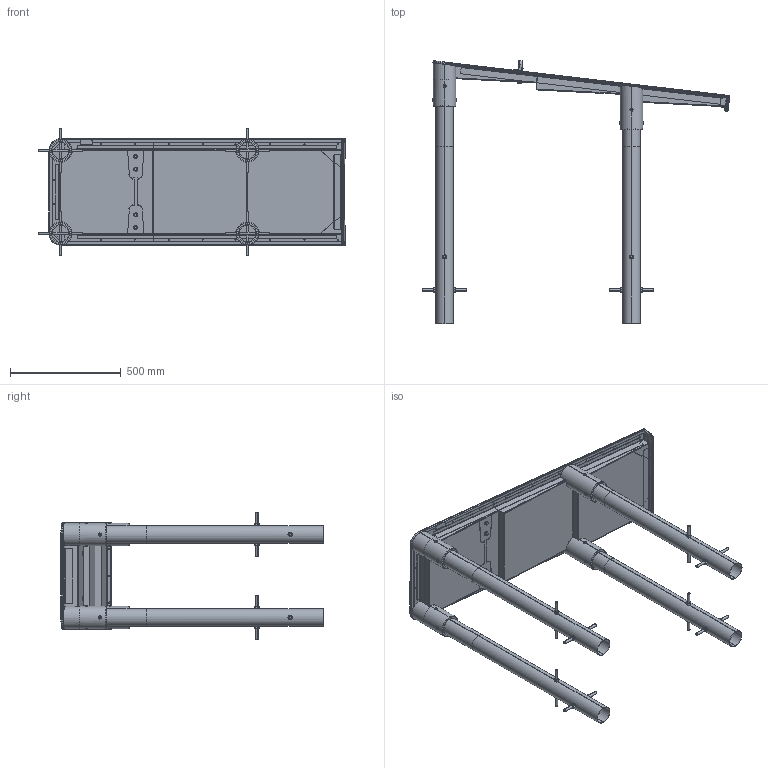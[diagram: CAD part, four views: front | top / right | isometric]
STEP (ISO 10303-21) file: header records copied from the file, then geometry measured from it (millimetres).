
FILE_DESCRIPTION (( 'STEP AP214' ), '1' );
FILE_NAME ('570.204.010.012 - Waterfall CA.STEP', '2021-03-25T11:14:47', ( '' ), ( '' ), 'SwSTEP 2.0', 'SolidWorks 2018', '' );
FILE_SCHEMA (( 'AUTOMOTIVE_DESIGN' ));
Length unit declared in the file: millimetre
Products named in the file (1): 570.204.010.012 - Waterfall CA
Bounding box: 1386.33 x 1187.25 x 574.39 mm (x, y, z)
Surface area: 4469250.4 mm2 (no closed solid volume)
Topology: 0 solids, 194 shells, 998 faces, 3514 edges, 2522 vertices
Faces by surface type: plane 355, cylinder 324, torus 94, cone 91, bspline 90, sphere 44
Entity records: 57899 total; most frequent: CARTESIAN_POINT 18628, DIRECTION 5971, ORIENTED_EDGE 4940, EDGE_CURVE 3494, VERTEX_POINT 2522, AXIS2_PLACEMENT_3D 2343, CIRCLE 1434, VECTOR 1285
